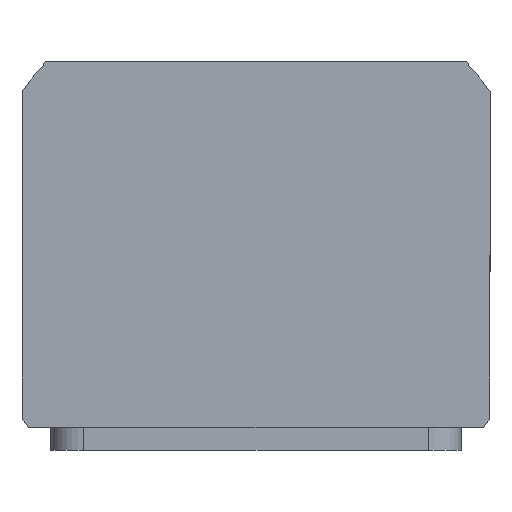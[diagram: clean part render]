
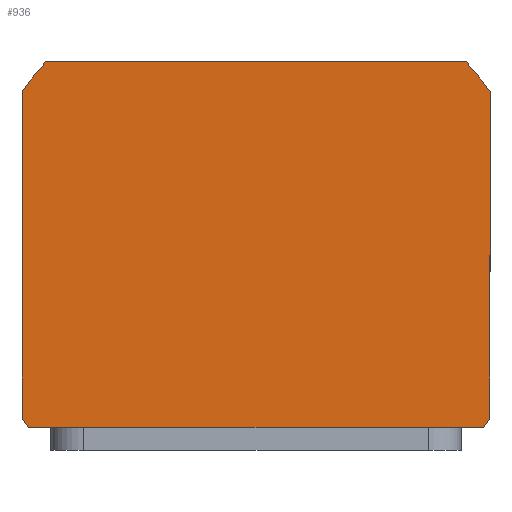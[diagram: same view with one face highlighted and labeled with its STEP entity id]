
A CAD part, top view. The second image highlights one B-rep face of the part: STEP entity #936.
In plain terms, the highlighted planar face has unit normal (0, 0, 1) as drawn and (0, 0, -1) by its records, which use the part's own axes.
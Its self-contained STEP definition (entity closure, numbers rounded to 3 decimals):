
#168 = DIRECTION ( 'NONE',  ( 0., 0., 1. ) ) ;
#936 = ADVANCED_FACE ( 'NONE', ( #12490 ), #18320, .F. ) ;
#1077 = EDGE_LOOP ( 'NONE', ( #11146, #3938, #21615, #19796, #11682, #7065, #6845, #13381 ) ) ;
#1304 = DIRECTION ( 'NONE',  ( 0., 0., 1. ) ) ;
#2126 = DIRECTION ( 'NONE',  ( 0., 0., 1. ) ) ;
#2479 = VERTEX_POINT ( 'NONE', #18990 ) ;
#2520 = AXIS2_PLACEMENT_3D ( 'NONE', #9851, #22228, #11612 ) ;
#2530 = CARTESIAN_POINT ( 'NONE',  ( -57., 44.5, 0. ) ) ;
#2605 = VECTOR ( 'NONE', #6735, 1000. ) ;
#3623 = EDGE_CURVE ( 'NONE', #17585, #18689, #4050, .T. ) ;
#3938 = ORIENTED_EDGE ( 'NONE', *, *, #12421, .F. ) ;
#4050 = CIRCLE ( 'NONE', #21753, 69.5 ) ;
#5634 = CARTESIAN_POINT ( 'NONE',  ( -57., -37.255, 0. ) ) ;
#5901 = EDGE_CURVE ( 'NONE', #14913, #7841, #13692, .T. ) ;
#5929 = DIRECTION ( 'NONE',  ( 0., -1., 0. ) ) ;
#6102 = VERTEX_POINT ( 'NONE', #19463 ) ;
#6645 = VECTOR ( 'NONE', #18509, 1000. ) ;
#6735 = DIRECTION ( 'NONE',  ( 1., 0., 0. ) ) ;
#6845 = ORIENTED_EDGE ( 'NONE', *, *, #18581, .F. ) ;
#7065 = ORIENTED_EDGE ( 'NONE', *, *, #12331, .F. ) ;
#7579 = EDGE_CURVE ( 'NONE', #10524, #14913, #13120, .T. ) ;
#7777 = EDGE_CURVE ( 'NONE', #18689, #2479, #20871, .T. ) ;
#7841 = VERTEX_POINT ( 'NONE', #17379 ) ;
#8516 = CARTESIAN_POINT ( 'NONE',  ( -57., -44.5, 0. ) ) ;
#8816 = CARTESIAN_POINT ( 'NONE',  ( -57., 44.5, 0. ) ) ;
#9161 = CIRCLE ( 'NONE', #18487, 69.5 ) ;
#9514 = DIRECTION ( 'NONE',  ( 1., 0., 0. ) ) ;
#9851 = CARTESIAN_POINT ( 'NONE',  ( 0., 2.51, 0. ) ) ;
#10524 = VERTEX_POINT ( 'NONE', #14410 ) ;
#10765 = CARTESIAN_POINT ( 'NONE',  ( 0., 2.51, 0. ) ) ;
#10998 = AXIS2_PLACEMENT_3D ( 'NONE', #16544, #20105, #9514 ) ;
#11146 = ORIENTED_EDGE ( 'NONE', *, *, #7579, .F. ) ;
#11612 = DIRECTION ( 'NONE',  ( 1., 0., 0. ) ) ;
#11682 = ORIENTED_EDGE ( 'NONE', *, *, #3623, .F. ) ;
#11894 = CARTESIAN_POINT ( 'NONE',  ( 0., 2.51, 0. ) ) ;
#12058 = DIRECTION ( 'NONE',  ( -1., 0., 0. ) ) ;
#12331 = EDGE_CURVE ( 'NONE', #16885, #17585, #17148, .T. ) ;
#12421 = EDGE_CURVE ( 'NONE', #6102, #10524, #21331, .T. ) ;
#12490 = FACE_OUTER_BOUND ( 'NONE', #1077, .T. ) ;
#12542 = DIRECTION ( 'NONE',  ( 1., 0., 0. ) ) ;
#12714 = CARTESIAN_POINT ( 'NONE',  ( 0., 2.51, 0. ) ) ;
#13102 = AXIS2_PLACEMENT_3D ( 'NONE', #12714, #2126, #14493 ) ;
#13120 = CIRCLE ( 'NONE', #13102, 69.5 ) ;
#13232 = CARTESIAN_POINT ( 'NONE',  ( 55.382, 44.5, 0. ) ) ;
#13381 = ORIENTED_EDGE ( 'NONE', *, *, #5901, .F. ) ;
#13473 = CARTESIAN_POINT ( 'NONE',  ( -51.189, -44.5, 0. ) ) ;
#13666 = DIRECTION ( 'NONE',  ( 1., 0., 0. ) ) ;
#13692 = LINE ( 'NONE', #8816, #17841 ) ;
#14410 = CARTESIAN_POINT ( 'NONE',  ( 57., 42.275, 0. ) ) ;
#14493 = DIRECTION ( 'NONE',  ( 1., 0., 0. ) ) ;
#14913 = VERTEX_POINT ( 'NONE', #13232 ) ;
#16500 = EDGE_CURVE ( 'NONE', #2479, #6102, #9161, .T. ) ;
#16544 = CARTESIAN_POINT ( 'NONE',  ( 0., 0., 0. ) ) ;
#16603 = VECTOR ( 'NONE', #5929, 1000. ) ;
#16748 = CARTESIAN_POINT ( 'NONE',  ( 57., 44.5, 0. ) ) ;
#16885 = VERTEX_POINT ( 'NONE', #21397 ) ;
#17148 = LINE ( 'NONE', #2530, #16603 ) ;
#17379 = CARTESIAN_POINT ( 'NONE',  ( -55.382, 44.5, 0. ) ) ;
#17585 = VERTEX_POINT ( 'NONE', #5634 ) ;
#17841 = VECTOR ( 'NONE', #12058, 1000. ) ;
#18320 = PLANE ( 'NONE',  #10998 ) ;
#18487 = AXIS2_PLACEMENT_3D ( 'NONE', #11894, #1304, #13666 ) ;
#18509 = DIRECTION ( 'NONE',  ( 0., 1., 0. ) ) ;
#18581 = EDGE_CURVE ( 'NONE', #7841, #16885, #20461, .T. ) ;
#18689 = VERTEX_POINT ( 'NONE', #13473 ) ;
#18990 = CARTESIAN_POINT ( 'NONE',  ( 51.189, -44.5, 0. ) ) ;
#19463 = CARTESIAN_POINT ( 'NONE',  ( 57., -37.255, 0. ) ) ;
#19796 = ORIENTED_EDGE ( 'NONE', *, *, #7777, .F. ) ;
#20105 = DIRECTION ( 'NONE',  ( 0., 0., 1. ) ) ;
#20461 = CIRCLE ( 'NONE', #2520, 69.5 ) ;
#20871 = LINE ( 'NONE', #8516, #2605 ) ;
#21331 = LINE ( 'NONE', #16748, #6645 ) ;
#21397 = CARTESIAN_POINT ( 'NONE',  ( -57., 42.275, 0. ) ) ;
#21615 = ORIENTED_EDGE ( 'NONE', *, *, #16500, .F. ) ;
#21753 = AXIS2_PLACEMENT_3D ( 'NONE', #10765, #168, #12542 ) ;
#22228 = DIRECTION ( 'NONE',  ( 0., 0., 1. ) ) ;
